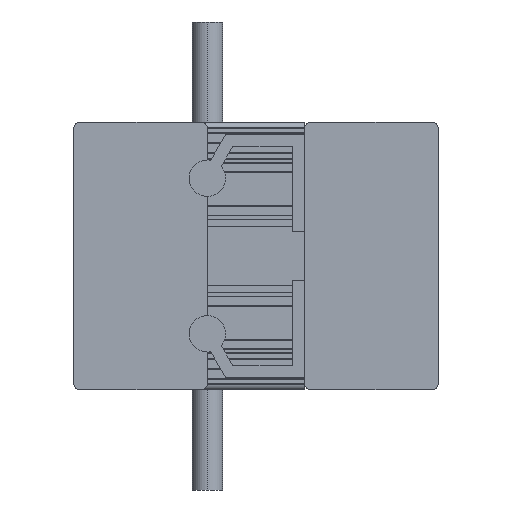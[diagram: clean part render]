
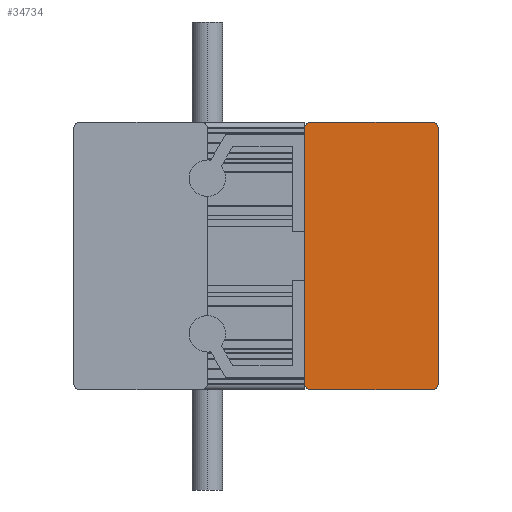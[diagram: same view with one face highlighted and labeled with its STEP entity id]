
A CAD part, left-side view. The second image highlights one B-rep face of the part: STEP entity #34734.
In plain terms, the highlighted planar face has unit normal (-1, 0, 0).
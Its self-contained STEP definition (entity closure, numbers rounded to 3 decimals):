
#261 = ORIENTED_EDGE ( 'NONE', *, *, #59510, .T. ) ;
#308 = CARTESIAN_POINT ( 'NONE',  ( -5., 22., -42. ) ) ;
#447 = CARTESIAN_POINT ( 'NONE',  ( -5., -22., -42. ) ) ;
#678 = CARTESIAN_POINT ( 'NONE',  ( -5., -22., -42. ) ) ;
#1451 = LINE ( 'NONE', #21926, #28675 ) ;
#1576 = DIRECTION ( 'NONE',  ( 0., 1., 0. ) ) ;
#2848 = AXIS2_PLACEMENT_3D ( 'NONE', #31554, #35365, #12700 ) ;
#4434 = CARTESIAN_POINT ( 'NONE',  ( -5., 20., -44. ) ) ;
#5144 = VERTEX_POINT ( 'NONE', #28417 ) ;
#5238 = DIRECTION ( 'NONE',  ( 0., 0., 1. ) ) ;
#5587 = CARTESIAN_POINT ( 'NONE',  ( -5., 20., 44. ) ) ;
#6017 = VECTOR ( 'NONE', #1576, 1000. ) ;
#8112 = VERTEX_POINT ( 'NONE', #678 ) ;
#8521 = CIRCLE ( 'NONE', #57246, 2. ) ;
#9528 = EDGE_CURVE ( 'NONE', #5144, #18068, #47772, .T. ) ;
#11773 = CARTESIAN_POINT ( 'NONE',  ( -5., -20., -44. ) ) ;
#12700 = DIRECTION ( 'NONE',  ( 0., 0., 1. ) ) ;
#13117 = VECTOR ( 'NONE', #52106, 1000. ) ;
#13493 = EDGE_LOOP ( 'NONE', ( #41544, #35617, #18703, #45652, #42691, #261, #16683, #31751 ) ) ;
#13868 = CARTESIAN_POINT ( 'NONE',  ( -5., 20., 42. ) ) ;
#14581 = EDGE_CURVE ( 'NONE', #34823, #26539, #1451, .T. ) ;
#14589 = CIRCLE ( 'NONE', #2848, 2. ) ;
#16564 = VECTOR ( 'NONE', #5238, 1000. ) ;
#16683 = ORIENTED_EDGE ( 'NONE', *, *, #9528, .T. ) ;
#17055 = PLANE ( 'NONE',  #52663 ) ;
#18068 = VERTEX_POINT ( 'NONE', #30780 ) ;
#18250 = VERTEX_POINT ( 'NONE', #308 ) ;
#18703 = ORIENTED_EDGE ( 'NONE', *, *, #44733, .T. ) ;
#18949 = EDGE_CURVE ( 'NONE', #18068, #18250, #33231, .T. ) ;
#21200 = AXIS2_PLACEMENT_3D ( 'NONE', #21857, #36176, #48994 ) ;
#21857 = CARTESIAN_POINT ( 'NONE',  ( -5., -20., -42. ) ) ;
#21926 = CARTESIAN_POINT ( 'NONE',  ( -5., 20., -44. ) ) ;
#23008 = FACE_OUTER_BOUND ( 'NONE', #13493, .T. ) ;
#23887 = CIRCLE ( 'NONE', #21200, 2. ) ;
#24227 = EDGE_CURVE ( 'NONE', #28571, #30049, #8521, .T. ) ;
#25864 = CARTESIAN_POINT ( 'NONE',  ( -5., 20., -42. ) ) ;
#26176 = CARTESIAN_POINT ( 'NONE',  ( -5., -22., 42. ) ) ;
#26539 = VERTEX_POINT ( 'NONE', #11773 ) ;
#26658 = DIRECTION ( 'NONE',  ( -1., 0., 0. ) ) ;
#28417 = CARTESIAN_POINT ( 'NONE',  ( -5., 20., 44. ) ) ;
#28571 = VERTEX_POINT ( 'NONE', #26176 ) ;
#28675 = VECTOR ( 'NONE', #53883, 1000. ) ;
#28766 = LINE ( 'NONE', #447, #16564 ) ;
#29689 = LINE ( 'NONE', #5587, #6017 ) ;
#30049 = VERTEX_POINT ( 'NONE', #34941 ) ;
#30780 = CARTESIAN_POINT ( 'NONE',  ( -5., 22., 42. ) ) ;
#31267 = DIRECTION ( 'NONE',  ( 0., 0., 1. ) ) ;
#31554 = CARTESIAN_POINT ( 'NONE',  ( -5., 20., -42. ) ) ;
#31751 = ORIENTED_EDGE ( 'NONE', *, *, #18949, .T. ) ;
#33231 = LINE ( 'NONE', #37882, #13117 ) ;
#33859 = EDGE_CURVE ( 'NONE', #8112, #28571, #28766, .T. ) ;
#34734 = ADVANCED_FACE ( 'NONE', ( #23008 ), #17055, .T. ) ;
#34823 = VERTEX_POINT ( 'NONE', #4434 ) ;
#34941 = CARTESIAN_POINT ( 'NONE',  ( -5., -20., 44. ) ) ;
#35365 = DIRECTION ( 'NONE',  ( -1., 0., 0. ) ) ;
#35617 = ORIENTED_EDGE ( 'NONE', *, *, #14581, .T. ) ;
#35888 = CARTESIAN_POINT ( 'NONE',  ( -5., -20., 42. ) ) ;
#36176 = DIRECTION ( 'NONE',  ( -1., 0., 0. ) ) ;
#37137 = DIRECTION ( 'NONE',  ( -1., 0., 0. ) ) ;
#37882 = CARTESIAN_POINT ( 'NONE',  ( -5., 22., -42. ) ) ;
#41544 = ORIENTED_EDGE ( 'NONE', *, *, #44727, .T. ) ;
#42691 = ORIENTED_EDGE ( 'NONE', *, *, #24227, .T. ) ;
#44727 = EDGE_CURVE ( 'NONE', #18250, #34823, #14589, .T. ) ;
#44733 = EDGE_CURVE ( 'NONE', #26539, #8112, #23887, .T. ) ;
#45652 = ORIENTED_EDGE ( 'NONE', *, *, #33859, .T. ) ;
#46002 = DIRECTION ( 'NONE',  ( 0., 0., -1. ) ) ;
#47772 = CIRCLE ( 'NONE', #48597, 2. ) ;
#48597 = AXIS2_PLACEMENT_3D ( 'NONE', #13868, #37137, #46002 ) ;
#48994 = DIRECTION ( 'NONE',  ( 0., 0., 1. ) ) ;
#52106 = DIRECTION ( 'NONE',  ( 0., 0., -1. ) ) ;
#52663 = AXIS2_PLACEMENT_3D ( 'NONE', #25864, #26658, #58773 ) ;
#53527 = DIRECTION ( 'NONE',  ( -1., 0., 0. ) ) ;
#53883 = DIRECTION ( 'NONE',  ( 0., -1., 0. ) ) ;
#57246 = AXIS2_PLACEMENT_3D ( 'NONE', #35888, #53527, #31267 ) ;
#58773 = DIRECTION ( 'NONE',  ( 0., 0., 1. ) ) ;
#59510 = EDGE_CURVE ( 'NONE', #30049, #5144, #29689, .T. ) ;
